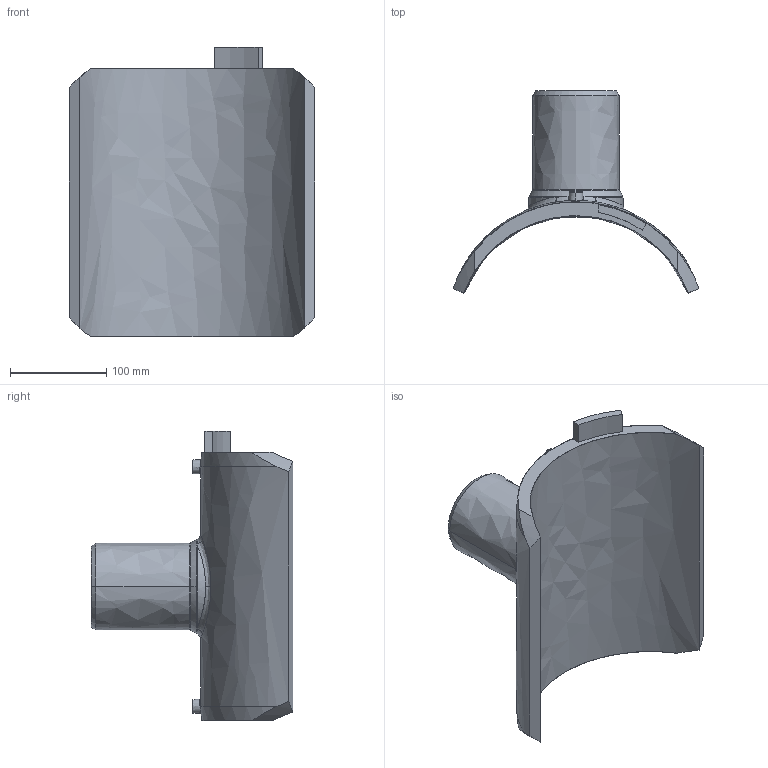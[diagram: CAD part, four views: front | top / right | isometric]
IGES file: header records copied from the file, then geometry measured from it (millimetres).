
Start section:  PTC IGES file: sa-uni_d250_90_01.igs
Global section: file name: sa-uni_d250_90_01.igs; native system: Pro/ENGINEER by Parametric Technology Corporation; preprocessor: 2011490; author: MikulicP; organization: Unknown; date: 20170202.150536; units: millimetre
Bounding box: 255.71 x 209.99 x 301 mm (x, y, z)
Surface area: 260090.7 mm2 (no closed solid volume)
Topology: 0 solids, 0 shells, 216 faces, 1070 edges, 1068 vertices
Faces by surface type: bspline 216
